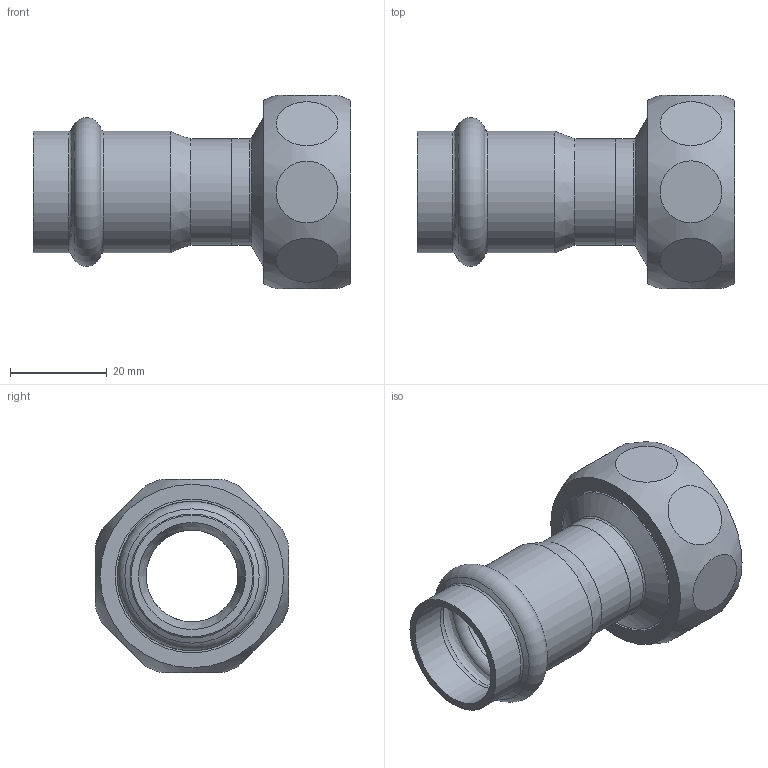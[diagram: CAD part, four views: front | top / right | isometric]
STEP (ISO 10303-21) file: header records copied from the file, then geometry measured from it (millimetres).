
FILE_DESCRIPTION((''),'2;1');
FILE_NAME('G:\Technics\CAD\Bauteile\022\1736022118(1).stp','2008-02-18T10:48:24',('herberg'),(''),'Autodesk Inventor 2008','Autodesk Inventor 2008','');
FILE_SCHEMA(('AUTOMOTIVE_DESIGN { 1 0 10303 214 1 1 1 1 }'));
Length unit declared in the file: millimetre
Products named in the file (4): 1736022118(1); 6924322HM(1); G_36022118(0); MAM22118(0)
Assembly tree (3 placements, depth 2):
  1736022118(1)
    6924322HM(1)
    G_36022118(0)
    MAM22118(0)
Bounding box: 65.6 x 40 x 40 mm (x, y, z)
Volume: 18335 mm3; surface area: 15730.2 mm2
Topology: 3 solids, 3 shells, 50 faces, 84 edges, 52 vertices
Faces by surface type: plane 18, cylinder 11, cone 10, bspline 8, torus 3
Full cylindrical faces by diameter (mm): 19 x2, 19.3 x1, 22 x2, 22.15 x2, 25.15 x2, 31 x1, 34.3 x1
Entity records: 1379 total; most frequent: CARTESIAN_POINT 432, DIRECTION 198, ORIENTED_EDGE 100, EDGE_LOOP 100, AXIS2_PLACEMENT_3D 99, VERTEX_POINT 50, CIRCLE 50, EDGE_CURVE 50
